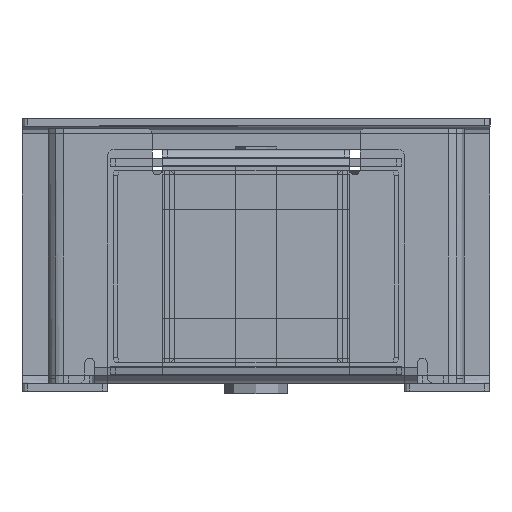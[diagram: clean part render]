
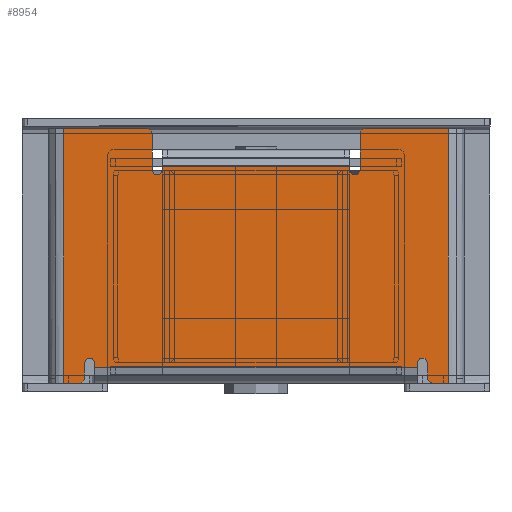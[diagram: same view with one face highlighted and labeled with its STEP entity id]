
A CAD part, front view. The second image highlights one B-rep face of the part: STEP entity #8954.
In plain terms, the highlighted planar face has unit normal (0, -1, 0).
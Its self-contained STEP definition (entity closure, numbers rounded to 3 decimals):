
#394=CIRCLE('',#9653,1.);
#395=CIRCLE('',#9654,1.);
#396=CIRCLE('',#9655,1.);
#397=CIRCLE('',#9656,1.);
#398=CIRCLE('',#9657,1.);
#399=CIRCLE('',#9658,1.);
#400=CIRCLE('',#9659,1.);
#401=CIRCLE('',#9660,1.);
#815=FACE_OUTER_BOUND('',#1309,.T.);
#1309=EDGE_LOOP('',(#7029,#7030,#7031,#7032,#7033,#7034,#7035,#7036,#7037,
#7038,#7039,#7040,#7041,#7042,#7043,#7044,#7045,#7046,#7047,#7048,#7049,
#7050,#7051,#7052));
#2120=LINE('',#14084,#3055);
#2155=LINE('',#14198,#3090);
#2156=LINE('',#14200,#3091);
#2157=LINE('',#14204,#3092);
#2158=LINE('',#14208,#3093);
#2159=LINE('',#14210,#3094);
#2160=LINE('',#14212,#3095);
#2161=LINE('',#14216,#3096);
#2162=LINE('',#14220,#3097);
#2163=LINE('',#14222,#3098);
#2164=LINE('',#14224,#3099);
#2165=LINE('',#14228,#3100);
#2166=LINE('',#14232,#3101);
#2167=LINE('',#14234,#3102);
#2168=LINE('',#14236,#3103);
#2169=LINE('',#14239,#3104);
#3055=VECTOR('',#11549,10.);
#3090=VECTOR('',#11636,10.);
#3091=VECTOR('',#11637,10.);
#3092=VECTOR('',#11640,10.);
#3093=VECTOR('',#11643,10.);
#3094=VECTOR('',#11644,10.);
#3095=VECTOR('',#11645,10.);
#3096=VECTOR('',#11648,10.);
#3097=VECTOR('',#11651,10.);
#3098=VECTOR('',#11652,10.);
#3099=VECTOR('',#11653,10.);
#3100=VECTOR('',#11656,10.);
#3101=VECTOR('',#11659,10.);
#3102=VECTOR('',#11660,10.);
#3103=VECTOR('',#11661,10.);
#3104=VECTOR('',#11664,10.);
#3849=VERTEX_POINT('',#14081);
#3850=VERTEX_POINT('',#14083);
#3902=VERTEX_POINT('',#14195);
#3903=VERTEX_POINT('',#14197);
#3904=VERTEX_POINT('',#14199);
#3905=VERTEX_POINT('',#14201);
#3906=VERTEX_POINT('',#14203);
#3907=VERTEX_POINT('',#14205);
#3908=VERTEX_POINT('',#14207);
#3909=VERTEX_POINT('',#14209);
#3910=VERTEX_POINT('',#14211);
#3911=VERTEX_POINT('',#14213);
#3912=VERTEX_POINT('',#14215);
#3913=VERTEX_POINT('',#14217);
#3914=VERTEX_POINT('',#14219);
#3915=VERTEX_POINT('',#14221);
#3916=VERTEX_POINT('',#14223);
#3917=VERTEX_POINT('',#14225);
#3918=VERTEX_POINT('',#14227);
#3919=VERTEX_POINT('',#14229);
#3920=VERTEX_POINT('',#14231);
#3921=VERTEX_POINT('',#14233);
#3922=VERTEX_POINT('',#14235);
#3923=VERTEX_POINT('',#14237);
#4920=EDGE_CURVE('',#3849,#3850,#2120,.T.);
#4974=EDGE_CURVE('',#3850,#3902,#394,.T.);
#4975=EDGE_CURVE('',#3849,#3903,#2155,.T.);
#4976=EDGE_CURVE('',#3904,#3903,#2156,.T.);
#4977=EDGE_CURVE('',#3905,#3904,#395,.T.);
#4978=EDGE_CURVE('',#3905,#3906,#2157,.T.);
#4979=EDGE_CURVE('',#3907,#3906,#396,.T.);
#4980=EDGE_CURVE('',#3907,#3908,#2158,.T.);
#4981=EDGE_CURVE('',#3908,#3909,#2159,.T.);
#4982=EDGE_CURVE('',#3909,#3910,#2160,.T.);
#4983=EDGE_CURVE('',#3911,#3910,#397,.T.);
#4984=EDGE_CURVE('',#3911,#3912,#2161,.T.);
#4985=EDGE_CURVE('',#3913,#3912,#398,.T.);
#4986=EDGE_CURVE('',#3914,#3913,#2162,.T.);
#4987=EDGE_CURVE('',#3914,#3915,#2163,.T.);
#4988=EDGE_CURVE('',#3916,#3915,#2164,.T.);
#4989=EDGE_CURVE('',#3917,#3916,#399,.T.);
#4990=EDGE_CURVE('',#3917,#3918,#2165,.T.);
#4991=EDGE_CURVE('',#3919,#3918,#400,.T.);
#4992=EDGE_CURVE('',#3919,#3920,#2166,.T.);
#4993=EDGE_CURVE('',#3920,#3921,#2167,.T.);
#4994=EDGE_CURVE('',#3921,#3922,#2168,.T.);
#4995=EDGE_CURVE('',#3923,#3922,#401,.T.);
#4996=EDGE_CURVE('',#3923,#3902,#2169,.T.);
#7029=ORIENTED_EDGE('',*,*,#4974,.F.);
#7030=ORIENTED_EDGE('',*,*,#4920,.F.);
#7031=ORIENTED_EDGE('',*,*,#4975,.T.);
#7032=ORIENTED_EDGE('',*,*,#4976,.F.);
#7033=ORIENTED_EDGE('',*,*,#4977,.F.);
#7034=ORIENTED_EDGE('',*,*,#4978,.T.);
#7035=ORIENTED_EDGE('',*,*,#4979,.F.);
#7036=ORIENTED_EDGE('',*,*,#4980,.T.);
#7037=ORIENTED_EDGE('',*,*,#4981,.T.);
#7038=ORIENTED_EDGE('',*,*,#4982,.T.);
#7039=ORIENTED_EDGE('',*,*,#4983,.F.);
#7040=ORIENTED_EDGE('',*,*,#4984,.T.);
#7041=ORIENTED_EDGE('',*,*,#4985,.F.);
#7042=ORIENTED_EDGE('',*,*,#4986,.F.);
#7043=ORIENTED_EDGE('',*,*,#4987,.T.);
#7044=ORIENTED_EDGE('',*,*,#4988,.F.);
#7045=ORIENTED_EDGE('',*,*,#4989,.F.);
#7046=ORIENTED_EDGE('',*,*,#4990,.T.);
#7047=ORIENTED_EDGE('',*,*,#4991,.F.);
#7048=ORIENTED_EDGE('',*,*,#4992,.T.);
#7049=ORIENTED_EDGE('',*,*,#4993,.T.);
#7050=ORIENTED_EDGE('',*,*,#4994,.T.);
#7051=ORIENTED_EDGE('',*,*,#4995,.F.);
#7052=ORIENTED_EDGE('',*,*,#4996,.T.);
#8045=PLANE('',#9652);
#8954=ADVANCED_FACE('',(#815),#8045,.T.);
#9652=AXIS2_PLACEMENT_3D('',#14194,#11632,#11633);
#9653=AXIS2_PLACEMENT_3D('',#14196,#11634,#11635);
#9654=AXIS2_PLACEMENT_3D('',#14202,#11638,#11639);
#9655=AXIS2_PLACEMENT_3D('',#14206,#11641,#11642);
#9656=AXIS2_PLACEMENT_3D('',#14214,#11646,#11647);
#9657=AXIS2_PLACEMENT_3D('',#14218,#11649,#11650);
#9658=AXIS2_PLACEMENT_3D('',#14226,#11654,#11655);
#9659=AXIS2_PLACEMENT_3D('',#14230,#11657,#11658);
#9660=AXIS2_PLACEMENT_3D('',#14238,#11662,#11663);
#11549=DIRECTION('',(-1.,0.,0.));
#11632=DIRECTION('center_axis',(0.,-1.,0.));
#11633=DIRECTION('ref_axis',(0.,0.,
1.));
#11634=DIRECTION('center_axis',(0.,1.,0.));
#11635=DIRECTION('ref_axis',(-0.707,0.,-0.707));
#11636=DIRECTION('',(0.,0.,1.));
#11637=DIRECTION('',(1.,0.,0.));
#11638=DIRECTION('center_axis',(0.,1.,0.));
#11639=DIRECTION('ref_axis',(-0.707,0.,0.707));
#11640=DIRECTION('',(0.,0.,-1.));
#11641=DIRECTION('center_axis',(0.,-1.,0.));
#11642=DIRECTION('ref_axis',(-0.707,0.,-0.707));
#11643=DIRECTION('',(0.,0.,1.));
#11644=DIRECTION('',(-1.,0.,0.));
#11645=DIRECTION('',(0.,0.,-1.));
#11646=DIRECTION('center_axis',(0.,-1.,0.));
#11647=DIRECTION('ref_axis',(-0.707,0.,-0.707));
#11648=DIRECTION('',(0.,0.,1.));
#11649=DIRECTION('center_axis',(0.,1.,0.));
#11650=DIRECTION('ref_axis',(0.707,0.,0.707));
#11651=DIRECTION('',(1.,0.,0.));
#11652=DIRECTION('',(0.,0.,-1.));
#11653=DIRECTION('',(-1.,0.,0.));
#11654=DIRECTION('center_axis',(0.,1.,0.));
#11655=DIRECTION('ref_axis',(0.707,0.,-0.707));
#11656=DIRECTION('',(0.,0.,1.));
#11657=DIRECTION('center_axis',(0.,-1.,0.));
#11658=DIRECTION('ref_axis',(0.707,0.,0.707));
#11659=DIRECTION('',(0.,0.,-1.));
#11660=DIRECTION('',(1.,0.,0.));
#11661=DIRECTION('',(0.,0.,1.));
#11662=DIRECTION('center_axis',(0.,-1.,0.));
#11663=DIRECTION('ref_axis',(0.707,0.,0.707));
#11664=DIRECTION('',(0.,0.,-1.));
#14081=CARTESIAN_POINT('',(37.,-12311.5,-24.5));
#14083=CARTESIAN_POINT('',(34.,-12311.5,-24.5));
#14084=CARTESIAN_POINT('',(-40.,-12311.5,-24.5));
#14194=CARTESIAN_POINT('Origin',(0.,-12311.5,0.));
#14195=CARTESIAN_POINT('',(33.,-12311.5,-23.5));
#14196=CARTESIAN_POINT('Origin',(34.,-12311.5,-23.5));
#14197=CARTESIAN_POINT('',(37.,-12311.5,24.5));
#14198=CARTESIAN_POINT('',(37.,-12311.5,-12.25));
#14199=CARTESIAN_POINT('',(21.,-12311.5,24.5));
#14200=CARTESIAN_POINT('',(40.,-12311.5,24.5));
#14201=CARTESIAN_POINT('',(20.,-12311.5,23.5));
#14202=CARTESIAN_POINT('Origin',(21.,-12311.5,23.5));
#14203=CARTESIAN_POINT('',(20.,-12311.5,16.5));
#14204=CARTESIAN_POINT('',(20.,-12311.5,7.75));
#14205=CARTESIAN_POINT('',(18.,-12311.5,16.5));
#14206=CARTESIAN_POINT('Origin',(19.,-12311.5,16.5));
#14207=CARTESIAN_POINT('',(18.,-12311.5,17.5));
#14208=CARTESIAN_POINT('',(18.,-12311.5,10.25));
#14209=CARTESIAN_POINT('',(-18.,-12311.5,17.5));
#14210=CARTESIAN_POINT('',(9.,-12311.5,17.5));
#14211=CARTESIAN_POINT('',(-18.,-12311.5,16.5));
#14212=CARTESIAN_POINT('',(-18.,-12311.5,7.75));
#14213=CARTESIAN_POINT('',(-20.,-12311.5,16.5));
#14214=CARTESIAN_POINT('Origin',(-19.,-12311.5,16.5));
#14215=CARTESIAN_POINT('',(-20.,-12311.5,23.5));
#14216=CARTESIAN_POINT('',(-20.,-12311.5,12.25));
#14217=CARTESIAN_POINT('',(-21.,-12311.5,24.5));
#14218=CARTESIAN_POINT('Origin',(-21.,-12311.5,23.5));
#14219=CARTESIAN_POINT('',(-37.,-12311.5,24.5));
#14220=CARTESIAN_POINT('',(40.,-12311.5,24.5));
#14221=CARTESIAN_POINT('',(-37.,-12311.5,-24.5));
#14222=CARTESIAN_POINT('',(-37.,-12311.5,12.25));
#14223=CARTESIAN_POINT('',(-34.,-12311.5,-24.5));
#14224=CARTESIAN_POINT('',(-40.,-12311.5,-24.5));
#14225=CARTESIAN_POINT('',(-33.,-12311.5,-23.5));
#14226=CARTESIAN_POINT('Origin',(-34.,-12311.5,-23.5));
#14227=CARTESIAN_POINT('',(-33.,-12311.5,-20.5));
#14228=CARTESIAN_POINT('',(-33.,-12311.5,-9.75));
#14229=CARTESIAN_POINT('',(-31.,-12311.5,-20.5));
#14230=CARTESIAN_POINT('Origin',(-32.,-12311.5,-20.5));
#14231=CARTESIAN_POINT('',(-31.,-12311.5,-21.5));
#14232=CARTESIAN_POINT('',(-31.,-12311.5,-12.25));
#14233=CARTESIAN_POINT('',(31.,-12311.5,-21.5));
#14234=CARTESIAN_POINT('',(-15.5,-12311.5,-21.5));
#14235=CARTESIAN_POINT('',(31.,-12311.5,-20.5));
#14236=CARTESIAN_POINT('',(31.,-12311.5,-9.75));
#14237=CARTESIAN_POINT('',(33.,-12311.5,-20.5));
#14238=CARTESIAN_POINT('Origin',(32.,-12311.5,-20.5));
#14239=CARTESIAN_POINT('',(33.,-12311.5,-12.25));
